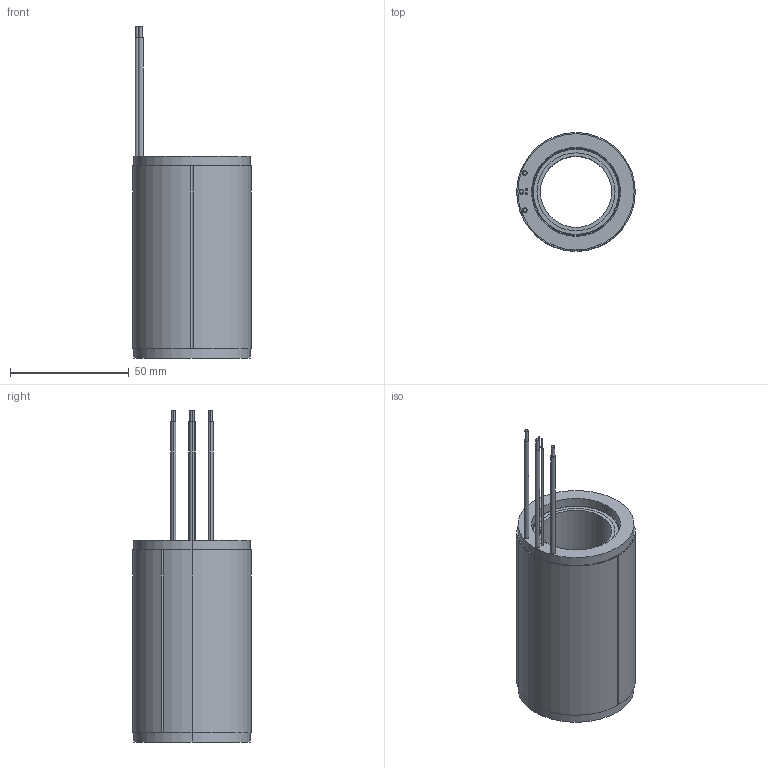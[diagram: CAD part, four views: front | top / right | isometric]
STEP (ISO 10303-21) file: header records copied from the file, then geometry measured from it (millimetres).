
FILE_DESCRIPTION (( 'STEP AP203' ), '1' );
FILE_NAME ('U5085 3D Model（STEP）.STEP', '2025-12-19T01:43:51', ( 'Windows User' ), ( 'P R C' ), 'SwSTEP 2.0', 'SolidWorks 2023', '' );
FILE_SCHEMA (( 'CONFIG_CONTROL_DESIGN' ));
Length unit declared in the file: millimetre
Products named in the file (1): U5085 3D Model（STEP）
Bounding box: 50 x 49.99 x 140 mm (x, y, z)
Volume: 101144.6 mm3; surface area: 59196.6 mm2
Topology: 3 solids, 3 shells, 74 faces, 158 edges, 102 vertices
Faces by surface type: cylinder 46, plane 24, cone 4
Entity records: 2135 total; most frequent: DIRECTION 416, CARTESIAN_POINT 335, ORIENTED_EDGE 316, AXIS2_PLACEMENT_3D 183, EDGE_CURVE 158, CIRCLE 108, VERTEX_POINT 102, EDGE_LOOP 92
